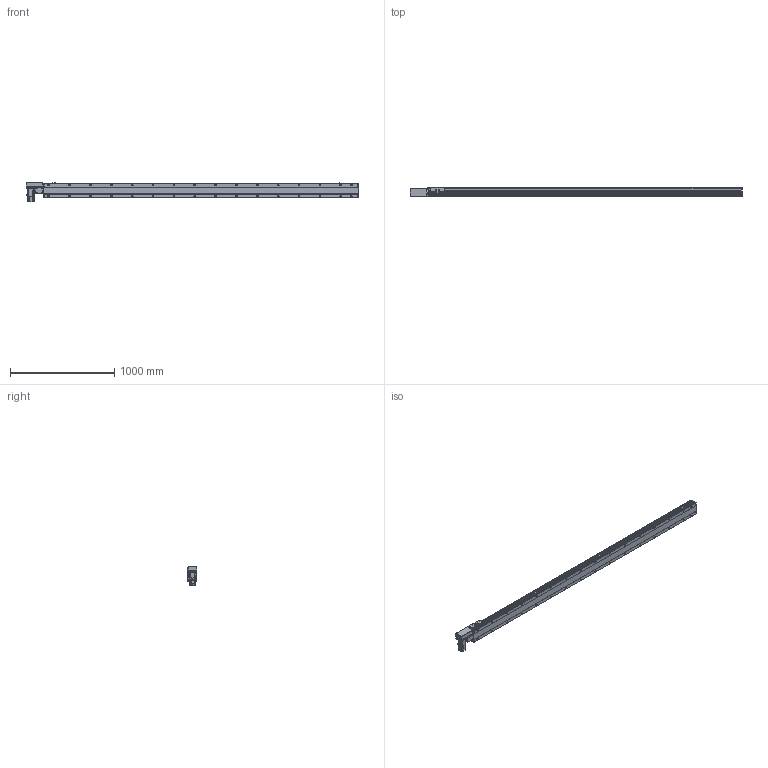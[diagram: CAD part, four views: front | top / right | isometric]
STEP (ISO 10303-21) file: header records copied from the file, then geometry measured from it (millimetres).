
FILE_DESCRIPTION( ( 'STEP AP214' ), '1' );
FILE_NAME( 'x:/temp/worker_6/temp/exporttempdir_5396_77_lTAI5/format_0/PBS140S-P40-S2750-R-T40-C1-N(0).stp', '2022-06-09T00:19:57', ( 'License CC BY-ND 4.0' ), ( 'CADENAS' ), ' ', 'PARTsolutions', ' ' );
FILE_SCHEMA( ( 'AUTOMOTIVE_DESIGN { 1 0 10303 214 1 1 1 1 }' ) );
Length unit declared in the file: millimetre
Products named in the file (7): PBS140S-P40-S2750-R-T40-C1-N(0); _PBS140S-S2750()_body; _PBS140ST-R_motors; _T40-p1; _PBS140S_sliser; _PBS140S_plant; _PBS140S_sensor
Assembly tree (8 placements, depth 2):
  PBS140S-P40-S2750-R-T40-C1-N(0)
    _PBS140S-S2750()_body
    _PBS140ST-R_motors
    _T40-p1
    _PBS140S_sliser
    _PBS140S_plant
    _PBS140S_sensor  x3
Bounding box: 3183 x 93 x 189.7 mm (x, y, z)
Volume: 15007798.6 mm3; surface area: 2523406.2 mm2
Topology: 8 solids, 8 shells, 1227 faces, 3231 edges, 2113 vertices
Faces by surface type: plane 750, cylinder 409, cone 58, sphere 8, torus 2
Full cylindrical faces by diameter (mm): 3.242 x4, 4 x2, 4.134 x4, 4.4 x8, 4.5 x2, 4.8 x4, 4.917 x40, 5.5 x7, 6 x2, 7 x34, 7.5 x8, 8 x12, 8.5 x4, 10.5 x32, 14 x1, 30 x2, 50 x2
Entity records: 45472 total; most frequent: CARTESIAN_POINT 7750, DIRECTION 5908, ORIENTED_EDGE 5542, EDGE_CURVE 2771, AXIS2_PLACEMENT_3D 2099, VERTEX_POINT 1945, LINE 1710, VECTOR 1710
